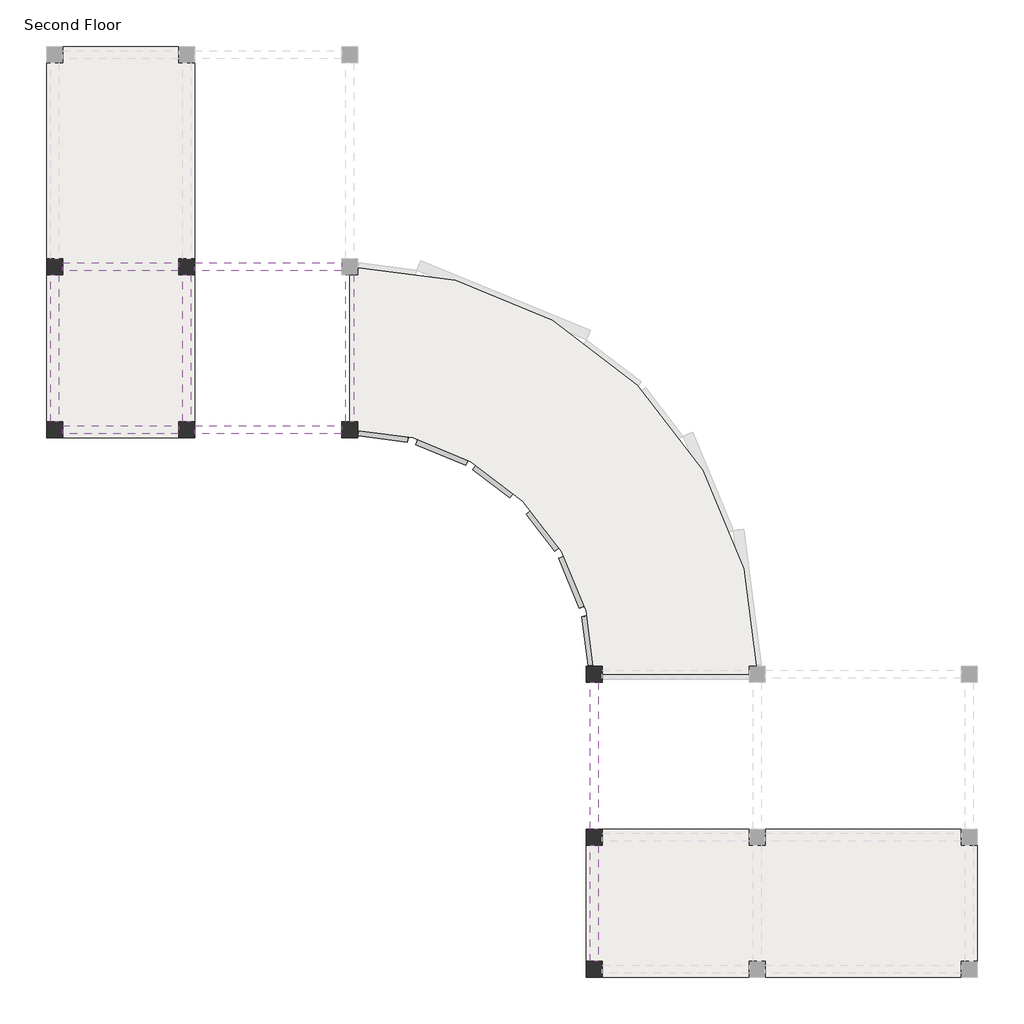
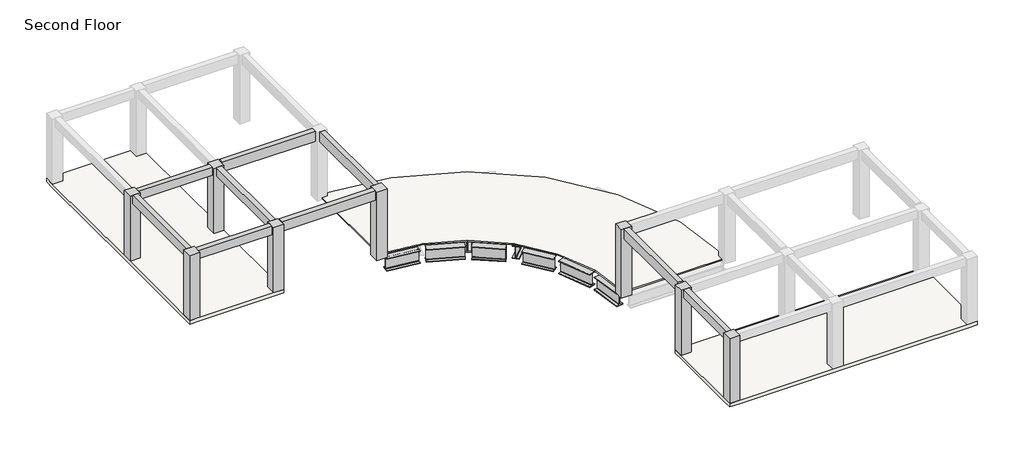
# One storey, part 1 of 2: 18 beams, 16 columns, 3 slabs.
"""IFC4 building model written with IfcOpenShell, lengths in millimetres."""

from ifc_helpers import new_model, si_unit, frame, origin, place, context, project, spatial, polyline, outline, extrude, faceted_brep, transform, mapped, element, save
from components import w760x350_12c19f72, w760x350_7ec89315, w760x350_d8cf7d22, w760x350_981adb13, w760x350_863436a1, w760x350_0a7047ff, w760x350_e8c7bbcb, w760x350_b2b244ea

model = new_model("IFC4")

# Units and contexts
model_context = context("Model", 3, world=origin())
ifc_project = project(units=[si_unit("LENGTHUNIT", "METRE", prefix="MILLI")], contexts=[model_context])

# Site, building, storey
site = spatial("IfcSite", under=ifc_project)
building = spatial("IfcBuilding", under=site)
storey = spatial("IfcBuildingStorey", under=building, Name="Second Floor", Elevation=3048.0)

# Beams
placement = place(None, origin())
element("IfcBeam", 1, ObjectType="M_Concrete-Rectangular Beam : 300 x 600mm", at=placement, inside=storey, context=model_context, shape_type="SweptSolid", body=[
    extrude(outline(polyline([(-16304.9035319, -3812.8363965), (-16304.9035319, -3512.8363965), (-10808.9035319, -3512.8363965), (-10808.9035319, -3812.8363965), (-16304.9035319, -3812.8363965)])), frame((0.0, 0.0, 6715.0), z_axis=(0.0, 0.0, 1.0), x_axis=(1.0, 0.0, 0.0)), (0.0, 0.0, 1.0), 600.0),
])
element("IfcBeam", 2, ObjectType="M_Concrete-Rectangular Beam : 300 x 600mm", at=placement, inside=storey, context=model_context, shape_type="SweptSolid", body=[
    extrude(outline(polyline([(-21244.300634, -3812.8363965), (-21244.300634, -3512.8363965), (-16904.9035319, -3512.8363965), (-16904.9035319, -3812.8363965), (-21244.300634, -3812.8363965)])), frame((0.0, 0.0, 6715.0), z_axis=(0.0, 0.0, 1.0), x_axis=(1.0, 0.0, 0.0)), (0.0, 0.0, 1.0), 510.0),
])
element("IfcBeam", 3, ObjectType="M_Concrete-Rectangular Beam : 300 x 600mm", at=placement, inside=storey, context=model_context, shape_type="SweptSolid", body=[
    extrude(outline(polyline([(-16304.9035319, -9908.8363965), (-16304.9035319, -9608.8363965), (-10808.9035319, -9608.8363965), (-10808.9035319, -9908.8363965), (-16304.9035319, -9908.8363965)])), frame((0.0, 0.0, 6715.0), z_axis=(0.0, 0.0, 1.0), x_axis=(1.0, 0.0, 0.0)), (0.0, 0.0, 1.0), 600.0),
])
element("IfcBeam", 4, ObjectType="M_Concrete-Rectangular Beam : 300 x 600mm", at=placement, inside=storey, context=model_context, shape_type="SweptSolid", body=[
    extrude(outline(polyline([(-21244.300634, -9908.8363965), (-21244.300634, -9608.8363965), (-16904.9035319, -9608.8363965), (-16904.9035319, -9908.8363965), (-21244.300634, -9908.8363965)])), frame((0.0, 0.0, 6715.0), z_axis=(0.0, 0.0, 1.0), x_axis=(1.0, 0.0, 0.0)), (0.0, 0.0, 1.0), 510.0),
])
element("IfcBeam", 5, ObjectType="M_Concrete-Rectangular Beam : 300 x 600mm", at=placement, inside=storey, context=model_context, shape_type="SweptSolid", body=[
    extrude(outline(polyline([(-21394.300634, -9458.8363965), (-21694.300634, -9458.8363965), (-21694.300634, -3962.8363965), (-21394.300634, -3962.8363965), (-21394.300634, -9458.8363965)])), frame((0.0, 0.0, 6715.0), z_axis=(0.0, 0.0, 1.0), x_axis=(1.0, 0.0, 0.0)), (0.0, 0.0, 1.0), 510.0),
])
element("IfcBeam", 6, ObjectType="M_Concrete-Rectangular Beam : 300 x 600mm", at=placement, inside=storey, context=model_context, shape_type="SweptSolid", body=[
    extrude(outline(polyline([(-16454.9035319, -9458.8363965), (-16754.9035319, -9458.8363965), (-16754.9035319, -3962.8363965), (-16454.9035319, -3962.8363965), (-16454.9035319, -9458.8363965)])), frame((0.0, 0.0, 6715.0), z_axis=(0.0, 0.0, 1.0), x_axis=(1.0, 0.0, 0.0)), (0.0, 0.0, 1.0), 510.0),
])
element("IfcBeam", 7, ObjectType="M_Concrete-Rectangular Beam : 300 x 600mm", at=placement, inside=storey, context=model_context, shape_type="SweptSolid", body=[
    extrude(outline(polyline([(-10358.9035319, -9458.8363965), (-10658.9035319, -9458.8363965), (-10658.9035319, -3962.8363965), (-10358.9035319, -3962.8363965), (-10358.9035319, -9458.8363965)])), frame((0.0, 0.0, 6715.0), z_axis=(0.0, 0.0, 1.0), x_axis=(1.0, 0.0, 0.0)), (0.0, 0.0, 1.0), 600.0),
])
element("IfcBeam", 8, ObjectType="M_Concrete-Rectangular Beam : 300 x 600mm", at=placement, inside=storey, context=model_context, shape_type="SweptSolid", body=[
    extrude(outline(polyline([(-1214.9035319, -24698.8363965), (-1514.9035319, -24698.8363965), (-1514.9035319, -19202.8363965), (-1214.9035319, -19202.8363965), (-1214.9035319, -24698.8363965)])), frame((0.0, 0.0, 6715.0), z_axis=(0.0, 0.0, 1.0), x_axis=(1.0, 0.0, 0.0)), (0.0, 0.0, 1.0), 600.0),
])
element("IfcBeam", 9, ObjectType="M_Concrete-Rectangular Beam : 300 x 600mm", at=placement, inside=storey, context=model_context, shape_type="SweptSolid", body=[
    extrude(outline(polyline([(-1214.9035319, -29638.2334986), (-1514.9035319, -29638.2334986), (-1514.9035319, -25298.8363965), (-1214.9035319, -25298.8363965), (-1214.9035319, -29638.2334986)])), frame((0.0, 0.0, 6715.0), z_axis=(0.0, 0.0, 1.0), x_axis=(1.0, 0.0, 0.0)), (0.0, 0.0, 1.0), 510.0),
])
w760x350_shape = w760x350_12c19f72(model_context)
element("IfcBeam", 10, ObjectType="M_W-Wide Flange : W760X350", at=placement, inside=storey, context=model_context, shape_type="MappedRepresentation", body=[
    mapped(w760x350_shape, transform((-5016.7075479, -11695.182511, 2523.5), x_axis=(-0.7953971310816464, 0.6060886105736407, 0.0), y_axis=(-0.6060886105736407, -0.7953971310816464, 0.0), z_axis=(0.0, 0.0, 1.0))),
])
w760x350_2_shape = w760x350_7ec89315(model_context)
element("IfcBeam", 11, ObjectType="M_W-Wide Flange : W760X350", at=placement, inside=storey, context=model_context, shape_type="MappedRepresentation", body=[
    mapped(w760x350_2_shape, transform((-7066.2790773, -10511.8618368, 2523.5), x_axis=(-0.9251619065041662, 0.37957271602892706, 0.0), y_axis=(-0.37957271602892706, -0.9251619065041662, 0.0), z_axis=(0.0, 0.0, 1.0))),
])
w760x350_3_shape = w760x350_d8cf7d22(model_context)
element("IfcBeam", 12, ObjectType="M_W-Wide Flange : W760X350", at=placement, inside=storey, context=model_context, shape_type="MappedRepresentation", body=[
    mapped(w760x350_3_shape, transform((-9325.5828576, -9914.6235187, 2523.5), x_axis=(-0.99144486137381, 0.13052619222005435, 0.0), y_axis=(-0.13052619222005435, -0.99144486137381, 0.0), z_axis=(0.0, 0.0, 1.0))),
])
w760x350_4_shape = w760x350_981adb13(model_context)
element("IfcBeam", 13, ObjectType="M_W-Wide Flange : W760X350", at=placement, inside=storey, context=model_context, shape_type="MappedRepresentation", body=[
    mapped(w760x350_4_shape, transform((-1520.6906541, -17719.5157223, 2523.5), x_axis=(-0.1305261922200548, 0.99144486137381, 0.0), y_axis=(-0.99144486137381, -0.1305261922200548, 0.0), z_axis=(0.0, 0.0, 1.0))),
])
element("IfcBeam", 14, ObjectType="M_W-Wide Flange : W760X350", at=placement, inside=storey, context=model_context, shape_type="MappedRepresentation", body=[
    mapped(w760x350_4_shape, transform((-9325.5828576, -9914.6235187, 2523.5), x_axis=(0.9914448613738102, -0.1305261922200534, 0.0), y_axis=(0.1305261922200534, 0.9914448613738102, 0.0), z_axis=(0.0, 0.0, 1.0))),
])
w760x350_5_shape = w760x350_863436a1(model_context)
element("IfcBeam", 15, ObjectType="M_W-Wide Flange : W760X350", at=placement, inside=storey, context=model_context, shape_type="MappedRepresentation", body=[
    mapped(w760x350_5_shape, transform((-4464.9452009, -8311.3279993, 2523.5), x_axis=(0.5000000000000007, 0.8660254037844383, 0.0), y_axis=(-0.8660254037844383, 0.5000000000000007, 0.0), z_axis=(0.0, 0.0, 1.0))),
])
w760x350_6_shape = w760x350_0a7047ff(model_context)
element("IfcBeam", 16, ObjectType="M_W-Wide Flange : W760X350", at=placement, inside=storey, context=model_context, shape_type="MappedRepresentation", body=[
    mapped(w760x350_6_shape, transform((-1887.8576556, -10281.7905203, 2523.5), x_axis=(0.7071067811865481, 0.7071067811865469, 0.0), y_axis=(-0.7071067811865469, 0.7071067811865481, 0.0), z_axis=(0.0, 0.0, 1.0))),
])
w760x350_7_shape = w760x350_e8c7bbcb(model_context)
element("IfcBeam", 17, ObjectType="M_W-Wide Flange : W760X350", at=placement, inside=storey, context=model_context, shape_type="MappedRepresentation", body=[
    mapped(w760x350_7_shape, transform((-3316.5431822, -13383.9441929, 2523.5), x_axis=(-0.6087614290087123, 0.7933533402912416, 0.0), y_axis=(-0.7933533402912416, -0.6087614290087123, 0.0), z_axis=(0.0, 0.0, 1.0))),
])
w760x350_8_shape = w760x350_b2b244ea(model_context)
element("IfcBeam", 18, ObjectType="M_W-Wide Flange : W760X350", at=placement, inside=storey, context=model_context, shape_type="MappedRepresentation", body=[
    mapped(w760x350_8_shape, transform((-2133.222508, -15433.5157223, 2523.5), x_axis=(-0.38268343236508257, 0.9238795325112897, 0.0), y_axis=(-0.9238795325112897, -0.38268343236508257, 0.0), z_axis=(0.0, 0.0, 1.0))),
])

# Columns
element("IfcColumn", 19, ObjectType="M_Concrete-Rectangular-Column : 600 x 600mm", at=placement, inside=storey, context=model_context, shape_type="SweptSolid", body=[
    extrude(outline(polyline([(-21844.300634, -10058.8363965), (-21844.300634, -9458.8363965), (-21244.300634, -9458.8363965), (-21244.300634, -10058.8363965), (-21844.300634, -10058.8363965)])), frame((0.0, 0.0, 3168.0), z_axis=(0.0, 0.0, 1.0), x_axis=(1.0, 0.0, 0.0)), (0.0, 0.0, 1.0), 4057.0),
])
element("IfcColumn", 20, ObjectType="M_Concrete-Rectangular-Column : 600 x 600mm", at=placement, inside=storey, context=model_context, shape_type="SweptSolid", body=[
    extrude(outline(polyline([(-21844.300634, -3962.8363965), (-21844.300634, -3362.8363965), (-21244.300634, -3362.8363965), (-21244.300634, -3962.8363965), (-21844.300634, -3962.8363965)])), frame((0.0, 0.0, 3168.0), z_axis=(0.0, 0.0, 1.0), x_axis=(1.0, 0.0, 0.0)), (0.0, 0.0, 1.0), 4057.0),
])
element("IfcColumn", 21, ObjectType="M_Concrete-Rectangular-Column : 600 x 600mm", at=placement, inside=storey, context=model_context, shape_type="SweptSolid", body=[
    extrude(outline(polyline([(-16904.9035319, -10058.8363965), (-16904.9035319, -9458.8363965), (-16304.9035319, -9458.8363965), (-16304.9035319, -10058.8363965), (-16904.9035319, -10058.8363965)])), frame((0.0, 0.0, 3168.0), z_axis=(0.0, 0.0, 1.0), x_axis=(1.0, 0.0, 0.0)), (0.0, 0.0, 1.0), 4057.0),
])
element("IfcColumn", 22, ObjectType="M_Concrete-Rectangular-Column : 600 x 600mm", at=placement, inside=storey, context=model_context, shape_type="SweptSolid", body=[
    extrude(outline(polyline([(-16904.9035319, -3962.8363965), (-16904.9035319, -3362.8363965), (-16304.9035319, -3362.8363965), (-16304.9035319, -3962.8363965), (-16904.9035319, -3962.8363965)])), frame((0.0, 0.0, 3168.0), z_axis=(0.0, 0.0, 1.0), x_axis=(1.0, 0.0, 0.0)), (0.0, 0.0, 1.0), 4057.0),
])
element("IfcColumn", 23, ObjectType="M_Concrete-Rectangular-Column : 600 x 600mm", at=placement, inside=storey, context=model_context, shape_type="Brep", body=[
    faceted_brep([(-10808.9035319, -10058.8363965, 3048.0), (-10808.9035319, -9458.8363965, 3048.0), (-10208.9035319, -9458.8363965, 3048.0), (-10208.9035319, -10058.8363965, 3048.0), (-10808.9035319, -10058.8363965, 7315.0), (-10808.9035319, -9458.8363965, 7315.0), (-10208.9035319, -9458.8363965, 7315.0), (-10208.9035319, -9458.8363965, 3168.0), (-10508.9035319, -9458.8363965, 3168.0), (-10508.9035319, -9458.8363965, 3093.0), (-10208.9035319, -9458.8363965, 3093.0), (-10208.9035319, -9798.3321458, 3093.0), (-10208.9035319, -9798.3321458, 3168.0), (-10208.9035319, -10058.8363965, 7315.0), (-10508.9035319, -9758.8363965, 3093.0), (-10508.9035319, -9758.8363965, 3168.0)], [[[0, 1, 2, 3]], [[1, 0, 4, 5]], [[2, 1, 5, 6, 7, 8, 9, 10]], [[3, 2, 10, 11, 12, 7, 6, 13]], [[0, 3, 13, 4]], [[5, 4, 13, 6]], [[9, 14, 11, 10]], [[12, 15, 8, 7]], [[14, 15, 12, 11]], [[15, 14, 9, 8]]]),
])
element("IfcColumn", 24, ObjectType="M_Concrete-Rectangular-Column : 600 x 600mm", at=placement, inside=storey, context=model_context, shape_type="Brep", body=[
    faceted_brep([(-21844.300634, -10058.8363965, 7225.0), (-21844.300634, -9458.8363965, 7225.0), (-21844.300634, -9458.8363965, 3168.0), (-21844.300634, -10058.8363965, 3168.0), (-21694.300634, -9458.8363965, 7225.0), (-21394.300634, -9458.8363965, 7225.0), (-21244.300634, -9458.8363965, 7225.0), (-21244.300634, -9458.8363965, 3168.0), (-21244.300634, -9608.8363965, 7225.0), (-21244.300634, -9908.8363965, 7225.0), (-21244.300634, -10058.8363965, 7225.0), (-21244.300634, -10058.8363965, 3168.0)], [[[0, 1, 2, 3]], [[1, 4, 5, 6, 7, 2]], [[6, 8, 9, 10, 11, 7]], [[10, 0, 3, 11]], [[1, 0, 10, 9, 8, 6, 5, 4]], [[3, 2, 7, 11]]]),
])
element("IfcColumn", 25, ObjectType="M_Concrete-Rectangular-Column : 600 x 600mm", at=placement, inside=storey, context=model_context, shape_type="Brep", body=[
    faceted_brep([(-21844.300634, -3962.8363965, 7225.0), (-21844.300634, -3362.8363965, 7225.0), (-21844.300634, -3362.8363965, 3168.0), (-21844.300634, -3962.8363965, 3168.0), (-21694.300634, -3362.8363965, 7225.0), (-21394.300634, -3362.8363965, 7225.0), (-21244.300634, -3362.8363965, 7225.0), (-21244.300634, -3362.8363965, 3168.0), (-21244.300634, -3512.8363965, 7225.0), (-21244.300634, -3812.8363965, 7225.0), (-21244.300634, -3962.8363965, 7225.0), (-21244.300634, -3962.8363965, 3168.0), (-21394.300634, -3962.8363965, 7225.0), (-21694.300634, -3962.8363965, 7225.0)], [[[0, 1, 2, 3]], [[1, 4, 5, 6, 7, 2]], [[6, 8, 9, 10, 11, 7]], [[10, 12, 13, 0, 3, 11]], [[1, 0, 13, 12, 10, 9, 8, 6, 5, 4]], [[3, 2, 7, 11]]]),
])
element("IfcColumn", 26, ObjectType="M_Concrete-Rectangular-Column : 600 x 600mm", at=placement, inside=storey, context=model_context, shape_type="Brep", body=[
    faceted_brep([(-16904.9035319, -10058.8363965, 7225.0), (-16904.9035319, -9908.8363965, 7225.0), (-16904.9035319, -9608.8363965, 7225.0), (-16904.9035319, -9458.8363965, 7225.0), (-16904.9035319, -9458.8363965, 3168.0), (-16904.9035319, -10058.8363965, 3168.0), (-16754.9035319, -9458.8363965, 7225.0), (-16454.9035319, -9458.8363965, 7225.0), (-16304.9035319, -9458.8363965, 7225.0), (-16304.9035319, -9458.8363965, 3168.0), (-16304.9035319, -10058.8363965, 7225.0), (-16304.9035319, -10058.8363965, 3168.0)], [[[0, 1, 2, 3, 4, 5]], [[3, 6, 7, 8, 9, 4]], [[8, 10, 11, 9]], [[10, 0, 5, 11]], [[3, 2, 1, 0, 10, 8, 7, 6]], [[5, 4, 9, 11]]]),
])
element("IfcColumn", 27, ObjectType="M_Concrete-Rectangular-Column : 600 x 600mm", at=placement, inside=storey, context=model_context, shape_type="Brep", body=[
    faceted_brep([(-16904.9035319, -3962.8363965, 7225.0), (-16904.9035319, -3812.8363965, 7225.0), (-16904.9035319, -3512.8363965, 7225.0), (-16904.9035319, -3362.8363965, 7225.0), (-16904.9035319, -3362.8363965, 3168.0), (-16904.9035319, -3962.8363965, 3168.0), (-16754.9035319, -3362.8363965, 7225.0), (-16454.9035319, -3362.8363965, 7225.0), (-16304.9035319, -3362.8363965, 7225.0), (-16304.9035319, -3362.8363965, 3168.0), (-16304.9035319, -3962.8363965, 7225.0), (-16304.9035319, -3962.8363965, 3168.0), (-16454.9035319, -3962.8363965, 7225.0), (-16754.9035319, -3962.8363965, 7225.0)], [[[0, 1, 2, 3, 4, 5]], [[3, 6, 7, 8, 9, 4]], [[8, 10, 11, 9]], [[10, 12, 13, 0, 5, 11]], [[3, 2, 1, 0, 13, 12, 10, 8, 7, 6]], [[5, 4, 9, 11]]]),
])
element("IfcColumn", 28, ObjectType="M_Concrete-Rectangular-Column : 600 x 600mm", at=placement, inside=storey, context=model_context, shape_type="Brep", body=[
    faceted_brep([(-10808.9035319, -10058.8363965, 3048.0), (-10808.9035319, -9458.8363965, 3048.0), (-10208.9035319, -9458.8363965, 3048.0), (-10208.9035319, -10058.8363965, 3048.0), (-10808.9035319, -10058.8363965, 7315.0), (-10808.9035319, -9908.8363965, 7315.0), (-10808.9035319, -9608.8363965, 7315.0), (-10808.9035319, -9458.8363965, 7315.0), (-10658.9035319, -9458.8363965, 7315.0), (-10358.9035319, -9458.8363965, 7315.0), (-10208.9035319, -9458.8363965, 7315.0), (-10208.9035319, -9458.8363965, 3168.0), (-10508.9035319, -9458.8363965, 3168.0), (-10508.9035319, -9458.8363965, 3093.0), (-10208.9035319, -9458.8363965, 3093.0), (-10208.9035319, -9798.3321458, 3093.0), (-10208.9035319, -9798.3321458, 3168.0), (-10208.9035319, -10058.8363965, 7315.0), (-10508.9035319, -9758.8363965, 3093.0), (-10508.9035319, -9758.8363965, 3168.0)], [[[0, 1, 2, 3]], [[1, 0, 4, 5, 6, 7]], [[2, 1, 7, 8, 9, 10, 11, 12, 13, 14]], [[3, 2, 14, 15, 16, 11, 10, 17]], [[0, 3, 17, 4]], [[7, 6, 5, 4, 17, 10, 9, 8]], [[13, 18, 15, 14]], [[16, 19, 12, 11]], [[18, 19, 16, 15]], [[19, 18, 13, 12]]]),
])
element("IfcColumn", 29, ObjectType="M_Concrete-Rectangular-Column : 600 x 600mm", at=placement, inside=storey, context=model_context, shape_type="SweptSolid", body=[
    extrude(outline(polyline([(-1064.9035319, -30238.2334986), (-1664.9035319, -30238.2334986), (-1664.9035319, -29638.2334986), (-1064.9035319, -29638.2334986), (-1064.9035319, -30238.2334986)])), frame((0.0, 0.0, 3168.0), z_axis=(0.0, 0.0, 1.0), x_axis=(1.0, 0.0, 0.0)), (0.0, 0.0, 1.0), 4057.0),
])
element("IfcColumn", 30, ObjectType="M_Concrete-Rectangular-Column : 600 x 600mm", at=placement, inside=storey, context=model_context, shape_type="SweptSolid", body=[
    extrude(outline(polyline([(-1064.9035319, -25298.8363965), (-1664.9035319, -25298.8363965), (-1664.9035319, -24698.8363965), (-1064.9035319, -24698.8363965), (-1064.9035319, -25298.8363965)])), frame((0.0, 0.0, 3168.0), z_axis=(0.0, 0.0, 1.0), x_axis=(1.0, 0.0, 0.0)), (0.0, 0.0, 1.0), 4057.0),
])
element("IfcColumn", 31, ObjectType="M_Concrete-Rectangular-Column : 600 x 600mm", at=placement, inside=storey, context=model_context, shape_type="Brep", body=[
    faceted_brep([(-1064.9035319, -19202.8363965, 3048.0), (-1664.9035319, -19202.8363965, 3048.0), (-1664.9035319, -18602.8363965, 3048.0), (-1064.9035319, -18602.8363965, 3048.0), (-1064.9035319, -19202.8363965, 7315.0), (-1664.9035319, -19202.8363965, 7315.0), (-1064.9035319, -18602.8363965, 3093.0), (-1064.9035319, -18902.8363965, 3093.0), (-1064.9035319, -18902.8363965, 3168.0), (-1064.9035319, -18602.8363965, 3168.0), (-1064.9035319, -18602.8363965, 7315.0), (-1664.9035319, -18602.8363965, 7315.0), (-1404.3992811, -18602.8363965, 3168.0), (-1404.3992811, -18602.8363965, 3093.0), (-1364.9035319, -18902.8363965, 3093.0), (-1364.9035319, -18902.8363965, 3168.0)], [[[0, 1, 2, 3]], [[1, 0, 4, 5]], [[0, 3, 6, 7, 8, 9, 10, 4]], [[3, 2, 11, 10, 9, 12, 13, 6]], [[2, 1, 5, 11]], [[5, 4, 10, 11]], [[13, 14, 7, 6]], [[8, 15, 12, 9]], [[14, 15, 8, 7]], [[15, 14, 13, 12]]]),
])
element("IfcColumn", 32, ObjectType="M_Concrete-Rectangular-Column : 600 x 600mm", at=placement, inside=storey, context=model_context, shape_type="Brep", body=[
    faceted_brep([(-1064.9035319, -30238.2334986, 7225.0), (-1664.9035319, -30238.2334986, 7225.0), (-1664.9035319, -30238.2334986, 3168.0), (-1064.9035319, -30238.2334986, 3168.0), (-1064.9035319, -29638.2334986, 7225.0), (-1064.9035319, -29788.2334986, 7225.0), (-1064.9035319, -30088.2334986, 7225.0), (-1064.9035319, -29638.2334986, 3168.0), (-1664.9035319, -29638.2334986, 7225.0), (-1514.9035319, -29638.2334986, 7225.0), (-1214.9035319, -29638.2334986, 7225.0), (-1664.9035319, -29638.2334986, 3168.0)], [[[0, 1, 2, 3]], [[4, 5, 6, 0, 3, 7]], [[8, 9, 10, 4, 7, 11]], [[1, 8, 11, 2]], [[1, 0, 6, 5, 4, 10, 9, 8]], [[3, 2, 11, 7]]]),
])
element("IfcColumn", 33, ObjectType="M_Concrete-Rectangular-Column : 600 x 600mm", at=placement, inside=storey, context=model_context, shape_type="Brep", body=[
    faceted_brep([(-1064.9035319, -25298.8363965, 7225.0), (-1214.9035319, -25298.8363965, 7225.0), (-1514.9035319, -25298.8363965, 7225.0), (-1664.9035319, -25298.8363965, 7225.0), (-1664.9035319, -25298.8363965, 3168.0), (-1064.9035319, -25298.8363965, 3168.0), (-1064.9035319, -24698.8363965, 7225.0), (-1064.9035319, -24848.8363965, 7225.0), (-1064.9035319, -25148.8363965, 7225.0), (-1064.9035319, -24698.8363965, 3168.0), (-1664.9035319, -24698.8363965, 7225.0), (-1664.9035319, -24698.8363965, 3168.0)], [[[0, 1, 2, 3, 4, 5]], [[6, 7, 8, 0, 5, 9]], [[10, 6, 9, 11]], [[3, 10, 11, 4]], [[3, 2, 1, 0, 8, 7, 6, 10]], [[5, 4, 11, 9]]]),
])
element("IfcColumn", 34, ObjectType="M_Concrete-Rectangular-Column : 600 x 600mm", at=placement, inside=storey, context=model_context, shape_type="Brep", body=[
    faceted_brep([(-1064.9035319, -19202.8363965, 3048.0), (-1664.9035319, -19202.8363965, 3048.0), (-1664.9035319, -18602.8363965, 3048.0), (-1064.9035319, -18602.8363965, 3048.0), (-1064.9035319, -19202.8363965, 7315.0), (-1214.9035319, -19202.8363965, 7315.0), (-1514.9035319, -19202.8363965, 7315.0), (-1664.9035319, -19202.8363965, 7315.0), (-1064.9035319, -18602.8363965, 3093.0), (-1064.9035319, -18902.8363965, 3093.0), (-1064.9035319, -18902.8363965, 3168.0), (-1064.9035319, -18602.8363965, 3168.0), (-1064.9035319, -18602.8363965, 7315.0), (-1064.9035319, -18752.8363965, 7315.0), (-1064.9035319, -19052.8363965, 7315.0), (-1664.9035319, -18602.8363965, 7315.0), (-1404.3992811, -18602.8363965, 3168.0), (-1404.3992811, -18602.8363965, 3093.0), (-1364.9035319, -18902.8363965, 3093.0), (-1364.9035319, -18902.8363965, 3168.0)], [[[0, 1, 2, 3]], [[1, 0, 4, 5, 6, 7]], [[0, 3, 8, 9, 10, 11, 12, 13, 14, 4]], [[3, 2, 15, 12, 11, 16, 17, 8]], [[2, 1, 7, 15]], [[7, 6, 5, 4, 14, 13, 12, 15]], [[17, 18, 9, 8]], [[10, 19, 16, 11]], [[18, 19, 10, 9]], [[19, 18, 17, 16]]]),
])

# Slabs
element("IfcSlab", 35, ObjectType="160mm Concrete With 50mm Metal Deck", at=placement, inside=storey, context=model_context, shape_type="Brep", body=[
    faceted_brep([(-16304.9035319, 4562.1636035, 2958.0), (-16304.9035319, 3962.1636035, 2958.0), (-16304.9035319, -3362.8363965, 2958.0), (-16304.9035319, -3962.8363965, 2958.0), (-16304.9035319, -9458.8363965, 2958.0), (-16304.9035319, -10058.8363965, 2958.0), (-16904.9035319, -10058.8363965, 2958.0), (-21244.300634, -10058.8363965, 2958.0), (-21844.300634, -10058.8363965, 2958.0), (-21844.300634, -9458.8363965, 2958.0), (-21844.300634, -3962.8363965, 2958.0), (-21844.300634, -3362.8363965, 2958.0), (-21844.300634, 3962.1636035, 2958.0), (-21844.300634, 4562.1636035, 2958.0), (-21244.300634, 4562.1636035, 2958.0), (-16904.9035319, 4562.1636035, 2958.0), (-16304.9035319, 4562.1636035, 3168.0), (-16904.9035319, 4562.1636035, 3168.0), (-21244.300634, 4562.1636035, 3168.0), (-21844.300634, 4562.1636035, 3168.0), (-21844.300634, 3962.1636035, 3168.0), (-21844.300634, -3362.8363965, 3168.0), (-21844.300634, -3962.8363965, 3168.0), (-21844.300634, -9458.8363965, 3168.0), (-21844.300634, -10058.8363965, 3168.0), (-21244.300634, -10058.8363965, 3168.0), (-16904.9035319, -10058.8363965, 3168.0), (-16304.9035319, -10058.8363965, 3168.0), (-16304.9035319, -9458.8363965, 3168.0), (-16304.9035319, -3962.8363965, 3168.0), (-16304.9035319, -3362.8363965, 3168.0), (-16304.9035319, 3962.1636035, 3168.0)], [[[0, 1, 2, 3, 4, 5, 6, 7, 8, 9, 10, 11, 12, 13, 14, 15]], [[16, 17, 18, 19, 20, 21, 22, 23, 24, 25, 26, 27, 28, 29, 30, 31]], [[5, 4, 3, 2, 1, 0, 16, 31, 30, 29, 28, 27]], [[8, 7, 6, 5, 27, 26, 25, 24]], [[13, 12, 11, 10, 9, 8, 24, 23, 22, 21, 20, 19]], [[0, 15, 14, 13, 19, 18, 17, 16]]]),
])
element("IfcSlab", 36, ObjectType="160mm Concrete With 50mm Metal Deck", at=placement, inside=storey, context=model_context, shape_type="Brep", body=[
    faceted_brep([(12956.0964681, -24698.8363965, 2958.0), (12956.0964681, -25298.8363965, 2958.0), (12956.0964681, -29638.2334986, 2958.0), (12956.0964681, -30238.2334986, 2958.0), (12356.0964681, -30238.2334986, 2958.0), (5031.0964681, -30238.2334986, 2958.0), (4431.0964681, -30238.2334986, 2958.0), (-1064.9035319, -30238.2334986, 2958.0), (-1664.9035319, -30238.2334986, 2958.0), (-1664.9035319, -29638.2334986, 2958.0), (-1664.9035319, -25298.8363965, 2958.0), (-1664.9035319, -24698.8363965, 2958.0), (-1064.9035319, -24698.8363965, 2958.0), (4431.0964681, -24698.8363965, 2958.0), (5031.0964681, -24698.8363965, 2958.0), (12356.0964681, -24698.8363965, 2958.0), (12956.0964681, -24698.8363965, 3168.0), (12356.0964681, -24698.8363965, 3168.0), (5031.0964681, -24698.8363965, 3168.0), (4431.0964681, -24698.8363965, 3168.0), (-1064.9035319, -24698.8363965, 3168.0), (-1664.9035319, -24698.8363965, 3168.0), (-1664.9035319, -25298.8363965, 3168.0), (-1664.9035319, -29638.2334986, 3168.0), (-1664.9035319, -30238.2334986, 3168.0), (-1064.9035319, -30238.2334986, 3168.0), (4431.0964681, -30238.2334986, 3168.0), (5031.0964681, -30238.2334986, 3168.0), (12356.0964681, -30238.2334986, 3168.0), (12956.0964681, -30238.2334986, 3168.0), (12956.0964681, -29638.2334986, 3168.0), (12956.0964681, -25298.8363965, 3168.0)], [[[0, 1, 2, 3, 4, 5, 6, 7, 8, 9, 10, 11, 12, 13, 14, 15]], [[16, 17, 18, 19, 20, 21, 22, 23, 24, 25, 26, 27, 28, 29, 30, 31]], [[0, 15, 14, 13, 12, 11, 21, 20, 19, 18, 17, 16]], [[11, 10, 9, 8, 24, 23, 22, 21]], [[8, 7, 6, 5, 4, 3, 29, 28, 27, 26, 25, 24]], [[3, 2, 1, 0, 16, 31, 30, 29]]]),
])
element("IfcSlab", 37, ObjectType="75mm Metal Roof Deck", at=placement, inside=storey, context=model_context, shape_type="Brep", body=[
    faceted_brep([(-10508.9035319, -3662.8363965, 3093.0), (-10208.9035319, -3702.3321458, 3093.0), (-6564.5012845, -4182.1268039, 3093.0), (-2939.5944307, -5669.3429659, 3093.0), (242.5168812, -8094.0957697, 3093.0), (2689.3236218, -11282.8363965, 3093.0), (4211.8060608, -14958.4341491, 3093.0), (4691.6007189, -18602.8363965, 3093.0), (4731.0964681, -18902.8363965, 3093.0), (4431.0964681, -18902.8363965, 3093.0), (-1064.9035319, -18902.8363965, 3093.0), (-1364.9035319, -18902.8363965, 3093.0), (-1404.3992811, -18602.8363965, 3093.0), (-1676.4777763, -16536.1950481, 3093.0), (-2589.9672396, -14330.8363965, 3093.0), (-4043.1191247, -12437.0519893, 3093.0), (-5990.2959711, -10953.3130327, 3093.0), (-8142.2621834, -10070.4106409, 3093.0), (-10208.9035319, -9798.3321458, 3093.0), (-10508.9035319, -9758.8363965, 3093.0), (-10508.9035319, -9458.8363965, 3093.0), (-10508.9035319, -3962.8363965, 3093.0), (-10508.9035319, -3662.8363965, 3168.0), (-10508.9035319, -3962.8363965, 3168.0), (-10508.9035319, -9458.8363965, 3168.0), (-10508.9035319, -9758.8363965, 3168.0), (-10208.9035319, -9798.3321458, 3168.0), (-8142.2621834, -10070.4106409, 3168.0), (-5990.2959711, -10953.3130327, 3168.0), (-4043.1191247, -12437.0519893, 3168.0), (-2589.9672396, -14330.8363965, 3168.0), (-1676.4777763, -16536.1950481, 3168.0), (-1404.3992811, -18602.8363965, 3168.0), (-1364.9035319, -18902.8363965, 3168.0), (-1064.9035319, -18902.8363965, 3168.0), (4431.0964681, -18902.8363965, 3168.0), (4731.0964681, -18902.8363965, 3168.0), (4691.6007189, -18602.8363965, 3168.0), (4211.8060608, -14958.4341491, 3168.0), (2689.3236218, -11282.8363965, 3168.0), (242.5168812, -8094.0957697, 3168.0), (-2939.5944307, -5669.3429659, 3168.0), (-6564.5012845, -4182.1268039, 3168.0), (-10208.9035319, -3702.3321458, 3168.0)], [[[0, 1, 2, 3, 4, 5, 6, 7, 8, 9, 10, 11, 12, 13, 14, 15, 16, 17, 18, 19, 20, 21]], [[22, 23, 24, 25, 26, 27, 28, 29, 30, 31, 32, 33, 34, 35, 36, 37, 38, 39, 40, 41, 42, 43]], [[2, 1, 0, 22, 43, 42]], [[3, 2, 42, 41]], [[4, 3, 41, 40]], [[5, 4, 40, 39]], [[6, 5, 39, 38]], [[8, 7, 6, 38, 37, 36]], [[11, 10, 9, 8, 36, 35, 34, 33]], [[13, 12, 11, 33, 32, 31]], [[14, 13, 31, 30]], [[15, 14, 30, 29]], [[16, 15, 29, 28]], [[17, 16, 28, 27]], [[19, 18, 17, 27, 26, 25]], [[0, 21, 20, 19, 25, 24, 23, 22]]]),
])

save(model, "model.ifc")
